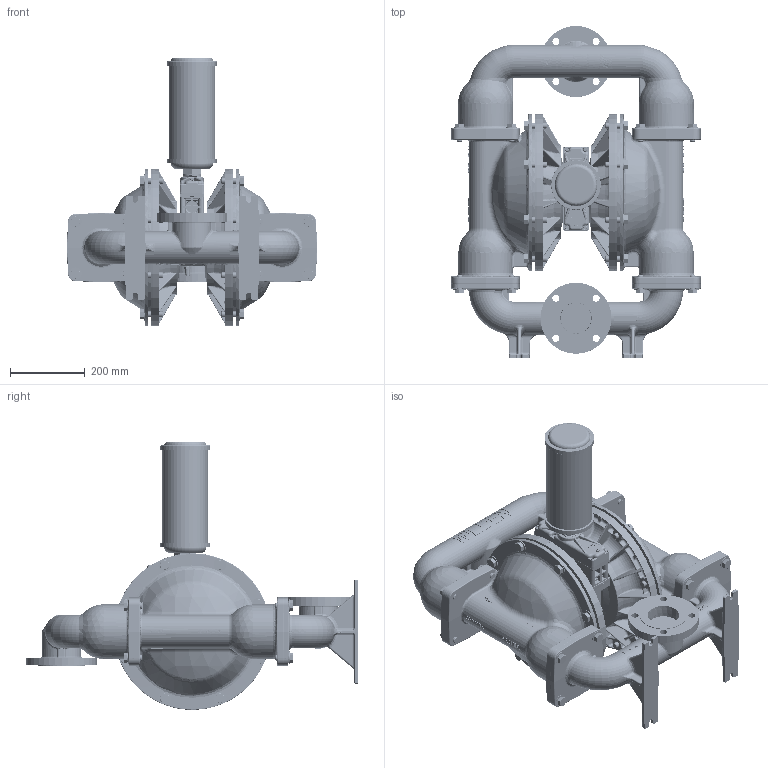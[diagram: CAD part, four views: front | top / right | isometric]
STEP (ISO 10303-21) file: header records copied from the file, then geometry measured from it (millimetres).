
FILE_DESCRIPTION (( 'STEP AP203' ), '1' );
FILE_NAME ('PS1530_ADV_DI_ANSI.STEP', '2022-05-26T11:25:54', ( '' ), ( '' ), 'SwSTEP 2.0', 'SolidWorks 2019', '' );
FILE_SCHEMA (( 'CONFIG_CONTROL_DESIGN' ));
Length unit declared in the file: inch
Products named in the file (1): PS1530_ADV_DI_ANSI
Bounding box: 672.77 x 890.9 x 721.03 mm (x, y, z)
Volume: 56524572 mm3; surface area: 2600895.5 mm2
Topology: 1 solids, 1 shells, 13215 faces, 33225 edges, 20416 vertices
Faces by surface type: plane 6594, bspline 2883, cylinder 1350, torus 1043, cone 815, sphere 530
Entity records: 785128 total; most frequent: CARTESIAN_POINT 492318, ORIENTED_EDGE 66346, DIRECTION 53460, EDGE_CURVE 33173, VERTEX_POINT 20408, AXIS2_PLACEMENT_3D 18315, VECTOR 16830, LINE 16830
